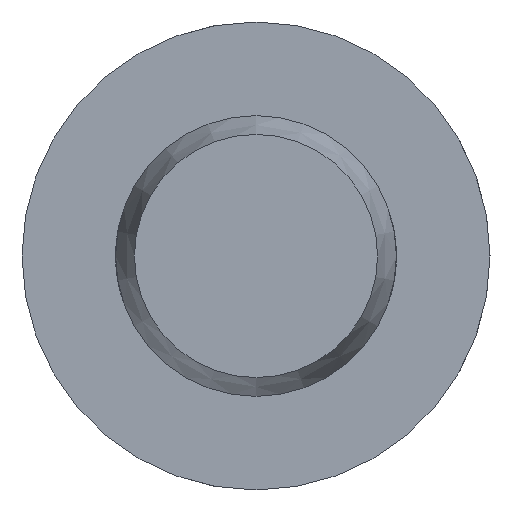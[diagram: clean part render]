
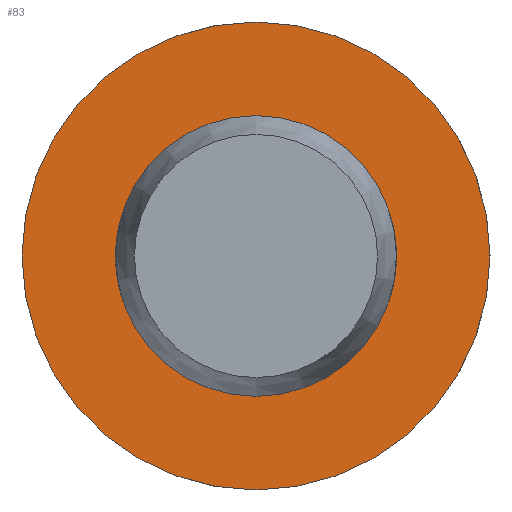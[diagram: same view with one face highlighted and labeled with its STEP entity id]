
A CAD part, left-side view. The second image highlights one B-rep face of the part: STEP entity #83.
In plain terms, the highlighted planar face has unit normal (-1, 0, 0).
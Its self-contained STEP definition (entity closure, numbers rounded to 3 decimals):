
#83 = ADVANCED_FACE( '', ( #129, #130 ), #131, .F. );
#129 = FACE_OUTER_BOUND( '', #208, .T. );
#130 = FACE_BOUND( '', #209, .T. );
#131 = PLANE( '', #210 );
#208 = EDGE_LOOP( '', ( #325 ) );
#209 = EDGE_LOOP( '', ( #326 ) );
#210 = AXIS2_PLACEMENT_3D( '', #327, #328, #329 );
#325 = ORIENTED_EDGE( '', *, *, #493, .F. );
#326 = ORIENTED_EDGE( '', *, *, #483, .T. );
#327 = CARTESIAN_POINT( '', ( 42., 3., 0. ) );
#328 = DIRECTION( '', ( 1., 0., 0. ) );
#329 = DIRECTION( '', ( 0., 0., -1. ) );
#483 = EDGE_CURVE( '', #554, #554, #555, .T. );
#493 = EDGE_CURVE( '', #572, #572, #573, .T. );
#554 = VERTEX_POINT( '', #741 );
#555 = CIRCLE( '', #742, 3. );
#572 = VERTEX_POINT( '', #850 );
#573 = CIRCLE( '', #851, 5. );
#741 = CARTESIAN_POINT( '', ( 42., 0., -3. ) );
#742 = AXIS2_PLACEMENT_3D( '', #914, #915, #916 );
#850 = CARTESIAN_POINT( '', ( 42., 0., -5. ) );
#851 = AXIS2_PLACEMENT_3D( '', #935, #936, #937 );
#914 = CARTESIAN_POINT( '', ( 42., 0., 0. ) );
#915 = DIRECTION( '', ( 1., 0., 0. ) );
#916 = DIRECTION( '', ( 0., 0., -1. ) );
#935 = CARTESIAN_POINT( '', ( 42., 0., 0. ) );
#936 = DIRECTION( '', ( 1., 0., 0. ) );
#937 = DIRECTION( '', ( 0., 0., -1. ) );
